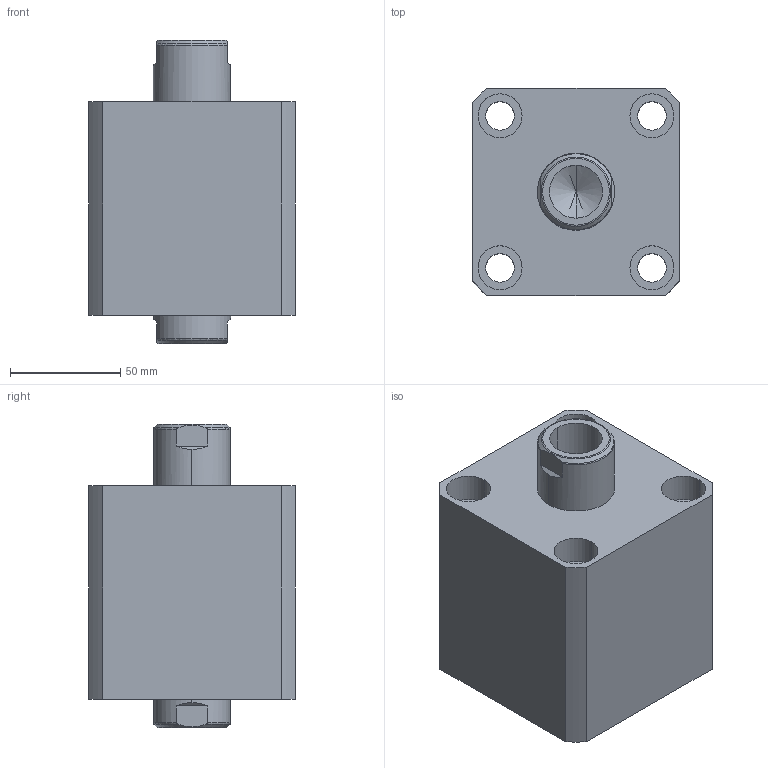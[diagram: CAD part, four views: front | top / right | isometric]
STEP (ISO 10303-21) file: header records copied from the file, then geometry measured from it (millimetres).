
FILE_DESCRIPTION (( 'STEP AP214' ), '1' );
FILE_NAME ('chtb-sw63x15n_asm.STEP', '2018-05-12T01:26:06', ( 'Windows' ), ( 'Microsoft' ), 'SwSTEP 2.0', 'SolidWorks 2015', '' );
FILE_SCHEMA (( 'AUTOMOTIVE_DESIGN' ));
Length unit declared in the file: millimetre
Products named in the file (4): CHTB-SW63X15NHSG; CHTB-SW63X15NBT; CHTB-63QG; chtb-sw63x15n_asm
Assembly tree (3 placements, depth 2):
  chtb-sw63x15n_asm
    CHTB-63QG
    CHTB-SW63X15NBT
    CHTB-SW63X15NHSG
Bounding box: 94 x 94 x 138 mm (x, y, z)
Volume: 759890.3 mm3; surface area: 133193 mm2
Topology: 3 solids, 3 shells, 184 faces, 515 edges, 349 vertices
Faces by surface type: cylinder 106, plane 38, cone 16, bspline 12, torus 12
Entity records: 18385 total; most frequent: CARTESIAN_POINT 13775, ORIENTED_EDGE 1014, DIRECTION 814, EDGE_CURVE 507, VERTEX_POINT 349, AXIS2_PLACEMENT_3D 331, EDGE_LOOP 220, ADVANCED_FACE 184
